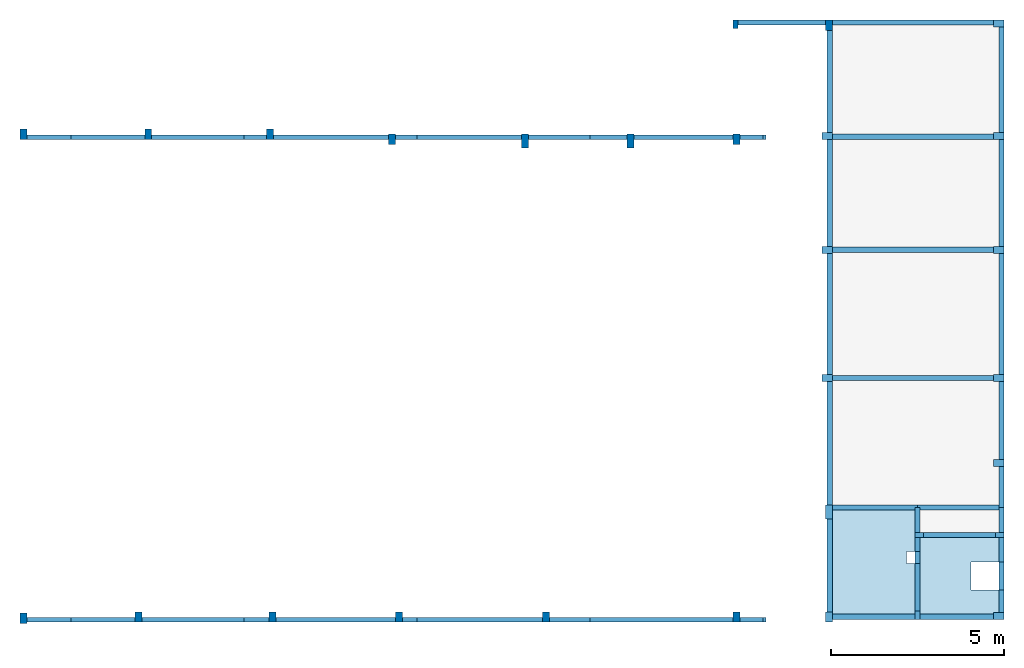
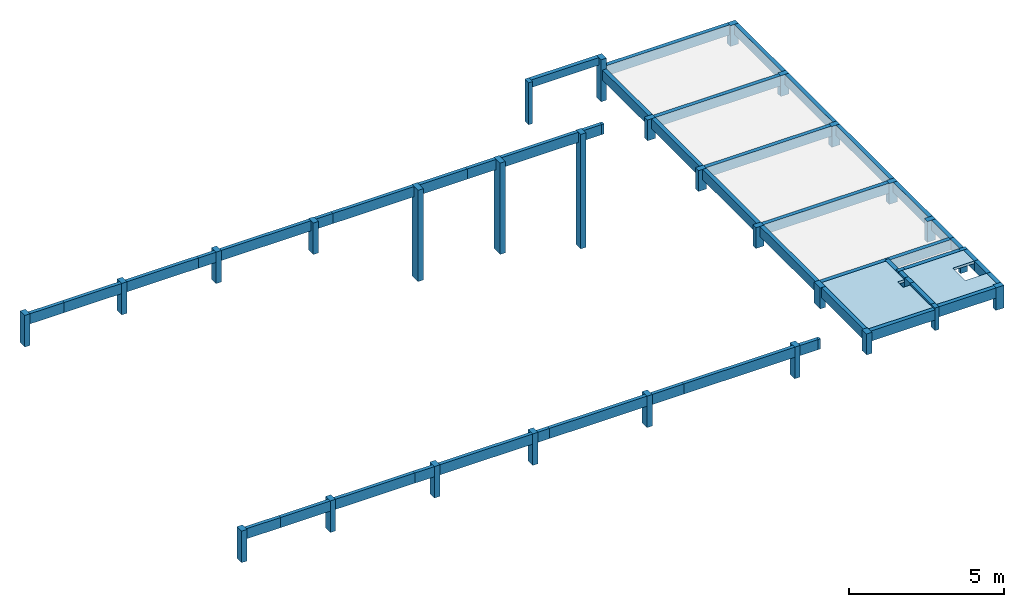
# One storey, part 1 of 3: 51 beams, 29 columns, 2 slabs.
"""IFC4 building model written with IfcOpenShell, lengths in centimetres."""

from ifc_helpers import new_model, si_unit, derived_unit, frame, origin_with_axes, origin_2d_with_axis, place, context, project, spatial, polyline, rectangle, outline, extrude, material, element, save


model = new_model("IFC4")

# Units and contexts
model_context = context("Model", 3, precision=1e-05, world=origin_with_axes(), identifier="Body")
ifc_project = project(units=[si_unit("LENGTHUNIT", "METRE", prefix="CENTI"), si_unit("VOLUMEUNIT", "CUBIC_METRE"), si_unit("AREAUNIT", "SQUARE_METRE"), si_unit("POWERUNIT", "WATT"), si_unit("LUMINOUSFLUXUNIT", "LUMEN"), si_unit("ELECTRICCURRENTUNIT", "AMPERE"), si_unit("PRESSUREUNIT", "PASCAL", prefix="KILO"), si_unit("MASSUNIT", "GRAM", prefix="KILO"), si_unit("PLANEANGLEUNIT", "RADIAN"), derived_unit("VOLUMETRICFLOWRATEUNIT", [(si_unit("LENGTHUNIT", "METRE"), 3), (si_unit("TIMEUNIT", "SECOND"), -1)])], contexts=[model_context])

# Site, building, storey
site_placement = place(None, origin_with_axes())
site = spatial("IfcSite", under=ifc_project, at=site_placement)
building_placement = place(site_placement, frame((0.0, 0.0, -295.0)))
building = spatial("IfcBuilding", under=site, at=building_placement)
placement_1 = place(building_placement, origin_with_axes())
placement_2 = place(placement_1, frame((0.0, 0.0, 101.0), z_axis=(0.0, 0.0, 1.0), x_axis=(1.0, 0.0, 0.0)))
placement_3 = place(placement_2, frame((0.0, 0.0, 204.0), z_axis=(0.0, 0.0, 1.0), x_axis=(1.0, 0.0, 0.0)))
placement_4 = place(placement_3, frame((0.0, 0.0, 292.0), z_axis=(0.0, 0.0, 1.0), x_axis=(1.0, 0.0, 0.0)))
placement_5 = place(placement_4, frame((0.0, 0.0, 302.0), z_axis=(0.0, 0.0, 1.0), x_axis=(1.0, 0.0, 0.0)))
placement_6 = place(placement_5, frame((0.0, 0.0, 326.0), z_axis=(0.0, 0.0, 1.0), x_axis=(1.0, 0.0, 0.0)))
storey_placement = place(placement_6, frame((0.0, 0.0, 124.0), z_axis=(0.0, 0.0, 1.0), x_axis=(1.0, 0.0, 0.0)))
storey = spatial("IfcBuildingStorey", under=building, at=storey_placement, Name="TELHADO CINE", CompositionType="ELEMENT", Elevation=1054.0)

# Columns
ifc_material = material(Name="Concreto")
column_1_placement = place(storey_placement, frame((4001.76, -5114.55, -42.0), z_axis=(0.0, 0.0, 1.0), x_axis=(1.0, 0.0, 0.0)))
element("IfcColumn", 1, at=column_1_placement, inside=storey, material=ifc_material, Name="P10", context=model_context, shape_type="SolidModel", body=[
    extrude(rectangle(XDim=20.0, YDim=30.0, at=origin_2d_with_axis()), frame((0.0, 0.0, 0.0), z_axis=(0.0, 0.0, 1.0), x_axis=(0.0, 1.0, 0.0)), (0.0, 0.0, -1.0), 82.0),
])
for number, where, z_axis, x_axis, name in (
    (2, (1183.9, -5434.69, 0.0), (0.0, 0.0, 1.0), (1.0, 0.0, 0.0), "P11"),
    (3, (1544.4, -5434.69, 0.0), (0.0, 0.0, 1.0), (1.0, 0.0, 0.0), "P12"),
    (4, (1895.85, -5434.69, 0.0), (0.0, 0.0, 1.0), (1.0, 0.0, 0.0), "P13"),
    (5, (2248.73, -5449.62, 0.0), (0.0, 0.0, 1.0), (1.0, 0.0, 0.0), "P14"),
):
    element("IfcColumn", number, at=place(storey_placement, frame(where, z_axis=z_axis, x_axis=x_axis)), inside=storey, material=ifc_material, Name=name, context=model_context, shape_type="SolidModel", body=[
        extrude(rectangle(XDim=20.0, YDim=30.0, at=origin_2d_with_axis()), origin_with_axes(), (0.0, 0.0, -1.0), 124.0),
    ])
for number, where, z_axis, x_axis, name in (
    (6, (2632.84, -5454.62, 0.0), (0.0, 0.0, 1.0), (1.0, 0.0, 0.0), "P15"),
    (7, (2938.28, -5454.62, 0.0), (0.0, 0.0, 1.0), (1.0, 0.0, 0.0), "P16"),
):
    element("IfcColumn", number, at=place(storey_placement, frame(where, z_axis=z_axis, x_axis=x_axis)), inside=storey, material=ifc_material, Name=name, context=model_context, shape_type="SolidModel", body=[
        extrude(rectangle(XDim=20.0, YDim=40.0, at=origin_2d_with_axis()), origin_with_axes(), (0.0, 0.0, -1.0), 359.0),
    ])
column_2_placement = place(storey_placement, frame((3243.73, -5449.62, 0.0), z_axis=(0.0, 0.0, 1.0), x_axis=(1.0, 0.0, 0.0)))
element("IfcColumn", 8, at=column_2_placement, inside=storey, material=ifc_material, Name="P17", context=model_context, shape_type="SolidModel", body=[
    extrude(rectangle(XDim=20.0, YDim=30.0, at=origin_2d_with_axis()), origin_with_axes(), (0.0, 0.0, -1.0), 450.0),
])
for number, where, z_axis, x_axis, name in (
    (9, (3505.71, -5439.69, -42.0), (0.0, 0.0, 1.0), (1.0, 0.0, 0.0), "P18"),
    (10, (4001.74, -5439.69, -42.0), (0.0, 0.0, 1.0), (1.0, 0.0, 0.0), "P19"),
    (11, (3505.73, -5768.55, -42.0), (0.0, 0.0, 1.0), (1.0, 0.0, 0.0), "P25"),
    (12, (4001.76, -5768.55, -42.0), (0.0, 0.0, 1.0), (1.0, 0.0, 0.0), "P26"),
    (13, (3505.73, -6138.55, -42.0), (0.0, 0.0, 1.0), (1.0, 0.0, 0.0), "P30"),
    (14, (4001.76, -6138.55, -42.0), (0.0, 0.0, 1.0), (1.0, 0.0, 0.0), "P31"),
    (15, (4001.76, -6384.65, -42.0), (0.0, 0.0, 1.0), (1.0, 0.0, 0.0), "P34"),
):
    element("IfcColumn", number, at=place(storey_placement, frame(where, z_axis=z_axis, x_axis=x_axis)), inside=storey, material=ifc_material, Name=name, context=model_context, shape_type="SolidModel", body=[
        extrude(rectangle(XDim=20.0, YDim=30.0, at=origin_2d_with_axis()), frame((0.0, 0.0, 0.0), z_axis=(0.0, 0.0, 1.0), x_axis=(0.0, -1.0, 0.0)), (0.0, 0.0, -1.0), 82.0),
    ])
column_3_placement = place(storey_placement, frame((3510.73, -6525.55, -42.0), z_axis=(0.0, 0.0, 1.0), x_axis=(1.0, 0.0, 0.0)))
element("IfcColumn", 16, at=column_3_placement, inside=storey, material=ifc_material, Name="P37", context=model_context, shape_type="SolidModel", body=[
    extrude(rectangle(XDim=20.0, YDim=40.0, at=origin_2d_with_axis()), origin_with_axes(), (0.0, 0.0, -1.0), 82.0),
])
for number, where, z_axis, x_axis, name in (
    (17, (3772.23, -6592.81, -35.0), (0.0, 0.0, 1.0), (1.0, 0.0, 0.0), "P38"),
    (18, (4004.23, -6592.81, -35.0), (0.0, 0.0, 1.0), (1.0, 0.0, 0.0), "P39"),
):
    element("IfcColumn", number, at=place(storey_placement, frame(where, z_axis=z_axis, x_axis=x_axis)), inside=storey, material=ifc_material, Name=name, context=model_context, shape_type="SolidModel", body=[
        extrude(rectangle(XDim=15.0, YDim=25.0, at=origin_2d_with_axis()), frame((0.0, 0.0, 0.0), z_axis=(0.0, 0.0, 1.0), x_axis=(0.0, 1.0, 0.0)), (0.0, 0.0, -1.0), 89.0),
    ])
for number, where, z_axis, x_axis, name in (
    (19, (1183.9, -6833.35, 0.0), (0.0, 0.0, 1.0), (1.0, 0.0, 0.0), "P41"),
    (20, (1515.96, -6829.2, 0.0), (0.0, 0.0, 1.0), (1.0, 0.0, 0.0), "P42"),
    (21, (1903.6, -6829.2, 0.0), (0.0, 0.0, 1.0), (1.0, 0.0, 0.0), "P43"),
    (22, (2268.73, -6829.2, 0.0), (0.0, 0.0, 1.0), (1.0, 0.0, 0.0), "P44"),
    (23, (2693.6, -6829.2, 0.0), (0.0, 0.0, 1.0), (1.0, 0.0, 0.0), "P45"),
    (24, (3243.73, -6829.2, 0.0), (0.0, 0.0, 1.0), (1.0, 0.0, 0.0), "P46"),
):
    element("IfcColumn", number, at=place(storey_placement, frame(where, z_axis=z_axis, x_axis=x_axis)), inside=storey, material=ifc_material, Name=name, context=model_context, shape_type="SolidModel", body=[
        extrude(rectangle(XDim=20.0, YDim=30.0, at=origin_2d_with_axis()), origin_with_axes(), (0.0, 0.0, -1.0), 124.0),
    ])
column_4_placement = place(storey_placement, frame((3510.73, -6829.2, -42.0), z_axis=(0.0, 0.0, 1.0), x_axis=(1.0, 0.0, 0.0)))
element("IfcColumn", 25, at=column_4_placement, inside=storey, material=ifc_material, Name="P47", context=model_context, shape_type="SolidModel", body=[
    extrude(rectangle(XDim=20.0, YDim=30.0, at=origin_2d_with_axis()), origin_with_axes(), (0.0, 0.0, -1.0), 82.0),
])
column_5_placement = place(storey_placement, frame((3767.23, -6823.79, -35.0), z_axis=(0.0, 0.0, 1.0), x_axis=(1.0, 0.0, 0.0)))
element("IfcColumn", 26, at=column_5_placement, inside=storey, material=ifc_material, Name="P48", context=model_context, shape_type="SolidModel", body=[
    extrude(rectangle(XDim=15.0, YDim=25.0, at=origin_2d_with_axis()), origin_with_axes(), (0.0, 0.0, -1.0), 89.0),
])
column_6_placement = place(storey_placement, frame((4001.75, -6826.29, -35.0), z_axis=(0.0, 0.0, 1.0), x_axis=(1.0, 0.0, 0.0)))
element("IfcColumn", 27, at=column_6_placement, inside=storey, material=ifc_material, Name="P49", context=model_context, shape_type="SolidModel", body=[
    extrude(rectangle(XDim=20.0, YDim=30.0, at=origin_2d_with_axis()), frame((0.0, 0.0, 0.0), z_axis=(0.0, 0.0, 1.0), x_axis=(0.0, 1.0, 0.0)), (0.0, 0.0, -1.0), 89.0),
])
column_7_placement = place(storey_placement, frame((3241.23, -5117.05, 0.0), z_axis=(0.0, 0.0, 1.0), x_axis=(1.0, 0.0, 0.0)))
element("IfcColumn", 28, at=column_7_placement, inside=storey, material=ifc_material, Name="P8", context=model_context, shape_type="SolidModel", body=[
    extrude(rectangle(XDim=15.0, YDim=25.0, at=origin_2d_with_axis()), origin_with_axes(), (0.0, 0.0, -1.0), 165.0),
])
column_8_placement = place(storey_placement, frame((3510.73, -5119.55, 0.0), z_axis=(0.0, 0.0, 1.0), x_axis=(1.0, 0.0, 0.0)))
element("IfcColumn", 29, at=column_8_placement, inside=storey, material=ifc_material, Name="P9", context=model_context, shape_type="SolidModel", body=[
    extrude(rectangle(XDim=20.0, YDim=30.0, at=origin_2d_with_axis()), frame((0.0, 0.0, 0.0), z_axis=(0.0, 0.0, 1.0), x_axis=(-1.0, 0.0, 0.0)), (0.0, 0.0, -1.0), 165.0),
])

# Beams
beam_1_placement = place(storey_placement, frame((3374.73, -5112.05, 0.0), z_axis=(0.0, 0.0, 1.0), x_axis=(1.0, 0.0, 0.0)))
element("IfcBeam", 30, at=beam_1_placement, inside=storey, material=ifc_material, Name="V401", context=model_context, shape_type="SolidModel", body=[
    extrude(rectangle(XDim=15.0, YDim=30.0, at=origin_2d_with_axis()), frame((-126.0, 0.0, -15.0), z_axis=(1.0, 0.0, 0.0), x_axis=(0.0, -1.0, 0.0)), (0.0, 0.0, 1.0), 252.0),
])
for number, where, z_axis, x_axis, name in (
    (31, (3753.745, -5112.05, -42.0), (0.0, 0.0, 1.0), (1.0, 0.0, 0.0), "V402"),
    (32, (3753.725, -5442.12, -42.0), (0.0, 0.0, 1.0), (1.0, 0.0, 0.0), "V403"),
    (33, (3753.745, -5768.55, -42.0), (0.0, 0.0, 1.0), (1.0, 0.0, 0.0), "V404"),
    (34, (3753.745, -6138.55, -42.0), (0.0, 0.0, 1.0), (1.0, 0.0, 0.0), "V405"),
):
    element("IfcBeam", number, at=place(storey_placement, frame(where, z_axis=z_axis, x_axis=x_axis)), inside=storey, material=ifc_material, Name=name, context=model_context, shape_type="SolidModel", body=[
        extrude(rectangle(XDim=15.0, YDim=40.0, at=origin_2d_with_axis()), frame((-233.015, 0.0, -20.0), z_axis=(1.0, 0.0, 0.0), x_axis=(0.0, -1.0, 0.0)), (0.0, 0.0, 1.0), 466.03),
    ])
beam_2_placement = place(storey_placement, frame((3643.98, -6513.05, -42.0), z_axis=(0.0, 0.0, 1.0), x_axis=(1.0, 0.0, 0.0)))
element("IfcBeam", 35, at=beam_2_placement, inside=storey, material=ifc_material, Name="V406", context=model_context, shape_type="SolidModel", body=[
    extrude(rectangle(XDim=15.0, YDim=40.0, at=origin_2d_with_axis()), frame((-123.25, 0.0, -20.0), z_axis=(1.0, 0.0, 0.0), x_axis=(0.0, -1.0, 0.0)), (0.0, 0.0, 1.0), 246.5),
])
beam_3_placement = place(storey_placement, frame((3888.245, -6513.05, -42.0), z_axis=(0.0, 0.0, 1.0), x_axis=(1.0, 0.0, 0.0)))
element("IfcBeam", 36, at=beam_3_placement, inside=storey, material=ifc_material, Name="V406", context=model_context, shape_type="SolidModel", body=[
    extrude(rectangle(XDim=15.0, YDim=40.0, at=origin_2d_with_axis()), frame((-121.015, 0.0, -20.0), z_axis=(1.0, 0.0, 0.0), x_axis=(0.0, -1.0, 0.0)), (0.0, 0.0, 1.0), 242.03),
])
beam_4_placement = place(storey_placement, frame((3888.23, -6592.81, -35.0), z_axis=(0.0, 0.0, 1.0), x_axis=(1.0, 0.0, 0.0)))
element("IfcBeam", 37, at=beam_4_placement, inside=storey, material=ifc_material, Name="V407", context=model_context, shape_type="SolidModel", body=[
    extrude(rectangle(XDim=15.0, YDim=40.0, at=origin_2d_with_axis()), frame((-103.5, 0.0, -20.0), z_axis=(1.0, 0.0, 0.0), x_axis=(0.0, -1.0, 0.0)), (0.0, 0.0, 1.0), 207.0),
])
beam_5_placement = place(storey_placement, frame((3640.23, -6828.79, -42.0), z_axis=(0.0, 0.0, 1.0), x_axis=(1.0, 0.0, 0.0)))
element("IfcBeam", 38, at=beam_5_placement, inside=storey, material=ifc_material, Name="V408", context=model_context, shape_type="SolidModel", body=[
    extrude(rectangle(XDim=15.0, YDim=40.0, at=origin_2d_with_axis()), frame((-119.5, 0.0, -20.0), z_axis=(1.0, 0.0, 0.0), x_axis=(0.0, -1.0, 0.0)), (0.0, 0.0, 1.0), 239.0),
])
beam_6_placement = place(storey_placement, frame((3880.74, -6828.79, -35.0), z_axis=(0.0, 0.0, 1.0), x_axis=(1.0, 0.0, 0.0)))
element("IfcBeam", 39, at=beam_6_placement, inside=storey, material=ifc_material, Name="V409", context=model_context, shape_type="SolidModel", body=[
    extrude(rectangle(XDim=15.0, YDim=40.0, at=origin_2d_with_axis()), frame((-106.01, 0.0, -20.0), z_axis=(1.0, 0.0, 0.0), x_axis=(0.0, -1.0, 0.0)), (0.0, 0.0, 1.0), 212.02),
])
beam_7_placement = place(storey_placement, frame((3513.23, -6327.05, -42.0), z_axis=(0.0, 0.0, 1.0), x_axis=(1.0, 0.0, 0.0)))
element("IfcBeam", 40, at=beam_7_placement, inside=storey, material=ifc_material, Name="V410", context=model_context, shape_type="SolidModel", body=[
    extrude(rectangle(XDim=15.0, YDim=40.0, at=origin_2d_with_axis()), frame((0.0, -178.5, -20.0), z_axis=(0.0, 1.0, 0.0), x_axis=(1.0, 0.0, 0.0)), (0.0, 0.0, 1.0), 357.0),
])
beam_8_placement = place(storey_placement, frame((3513.23, -6679.875, -42.0), z_axis=(0.0, 0.0, 1.0), x_axis=(1.0, 0.0, 0.0)))
element("IfcBeam", 41, at=beam_8_placement, inside=storey, material=ifc_material, Name="V410", context=model_context, shape_type="SolidModel", body=[
    extrude(rectangle(XDim=15.0, YDim=40.0, at=origin_2d_with_axis()), frame((0.0, -134.325, -20.0), z_axis=(0.0, 1.0, 0.0), x_axis=(1.0, 0.0, 0.0)), (0.0, 0.0, 1.0), 268.65),
])
beam_9_placement = place(storey_placement, frame((3513.23, -5953.55, -42.0), z_axis=(0.0, 0.0, 1.0), x_axis=(1.0, 0.0, 0.0)))
element("IfcBeam", 42, at=beam_9_placement, inside=storey, material=ifc_material, Name="V411", context=model_context, shape_type="SolidModel", body=[
    extrude(rectangle(XDim=15.0, YDim=40.0, at=origin_2d_with_axis()), frame((0.0, -175.0, -20.0), z_axis=(0.0, 1.0, 0.0), x_axis=(1.0, 0.0, 0.0)), (0.0, 0.0, 1.0), 350.0),
])
beam_10_placement = place(storey_placement, frame((3513.23, -5604.12, -42.0), z_axis=(0.0, 0.0, 1.0), x_axis=(1.0, 0.0, 0.0)))
element("IfcBeam", 43, at=beam_10_placement, inside=storey, material=ifc_material, Name="V411", context=model_context, shape_type="SolidModel", body=[
    extrude(rectangle(XDim=15.0, YDim=40.0, at=origin_2d_with_axis()), frame((0.0, -154.43, -20.0), z_axis=(0.0, 1.0, 0.0), x_axis=(1.0, 0.0, 0.0)), (0.0, 0.0, 1.0), 308.86),
])
beam_11_placement = place(storey_placement, frame((3513.23, -5282.12, -42.0), z_axis=(0.0, 0.0, 1.0), x_axis=(1.0, 0.0, 0.0)))
element("IfcBeam", 44, at=beam_11_placement, inside=storey, material=ifc_material, Name="V411", context=model_context, shape_type="SolidModel", body=[
    extrude(rectangle(XDim=15.0, YDim=40.0, at=origin_2d_with_axis()), frame((0.0, -147.57, -20.0), z_axis=(0.0, 1.0, 0.0), x_axis=(1.0, 0.0, 0.0)), (0.0, 0.0, 1.0), 295.14),
])
beam_12_placement = place(storey_placement, frame((3767.23, -6743.3, -35.0), z_axis=(0.0, 0.0, 1.0), x_axis=(1.0, 0.0, 0.0)))
element("IfcBeam", 45, at=beam_12_placement, inside=storey, material=ifc_material, Name="V412", context=model_context, shape_type="SolidModel", body=[
    extrude(rectangle(XDim=15.0, YDim=40.0, at=origin_2d_with_axis()), frame((0.0, -67.99, -20.0), z_axis=(0.0, 1.0, 0.0), x_axis=(1.0, 0.0, 0.0)), (0.0, 0.0, 1.0), 135.98),
])
beam_13_placement = place(storey_placement, frame((3767.23, -6657.81, -35.0), z_axis=(0.0, 0.0, 1.0), x_axis=(1.0, 0.0, 0.0)))
element("IfcBeam", 46, at=beam_13_placement, inside=storey, material=ifc_material, Name="V412", context=model_context, shape_type="SolidModel", body=[
    extrude(rectangle(XDim=15.0, YDim=40.0, at=origin_2d_with_axis()), frame((0.0, -17.5, -20.0), z_axis=(0.0, 1.0, 0.0), x_axis=(1.0, 0.0, 0.0)), (0.0, 0.0, 1.0), 35.0),
])
beam_14_placement = place(storey_placement, frame((3767.23, -6620.31, -35.0), z_axis=(0.0, 0.0, 1.0), x_axis=(1.0, 0.0, 0.0)))
element("IfcBeam", 47, at=beam_14_placement, inside=storey, material=ifc_material, Name="V412", context=model_context, shape_type="SolidModel", body=[
    extrude(rectangle(XDim=15.0, YDim=40.0, at=origin_2d_with_axis()), frame((0.0, -20.0, -20.0), z_axis=(0.0, 1.0, 0.0), x_axis=(1.0, 0.0, 0.0)), (0.0, 0.0, 1.0), 40.0),
])
beam_15_placement = place(storey_placement, frame((3767.23, -6549.18, -42.0), z_axis=(0.0, 0.0, 1.0), x_axis=(1.0, 0.0, 0.0)))
element("IfcBeam", 48, at=beam_15_placement, inside=storey, material=ifc_material, Name="V413", context=model_context, shape_type="SolidModel", body=[
    extrude(rectangle(XDim=15.0, YDim=30.0, at=origin_2d_with_axis()), frame((0.0, -36.13, -15.0), z_axis=(0.0, 1.0, 0.0), x_axis=(1.0, 0.0, 0.0)), (0.0, 0.0, 1.0), 72.26),
])
beam_16_placement = place(storey_placement, frame((4009.26, -6783.545, -35.0), z_axis=(0.0, 0.0, 1.0), x_axis=(1.0, 0.0, 0.0)))
element("IfcBeam", 49, at=beam_16_placement, inside=storey, material=ifc_material, Name="V414", context=model_context, shape_type="SolidModel", body=[
    extrude(rectangle(XDim=15.0, YDim=40.0, at=origin_2d_with_axis()), frame((0.0, -32.745, -20.0), z_axis=(0.0, 1.0, 0.0), x_axis=(1.0, 0.0, 0.0)), (0.0, 0.0, 1.0), 65.49),
])
beam_17_placement = place(storey_placement, frame((4009.26, -6635.555, -35.0), z_axis=(0.0, 0.0, 1.0), x_axis=(1.0, 0.0, 0.0)))
element("IfcBeam", 50, at=beam_17_placement, inside=storey, material=ifc_material, Name="V414", context=model_context, shape_type="SolidModel", body=[
    extrude(rectangle(XDim=15.0, YDim=40.0, at=origin_2d_with_axis()), frame((0.0, -35.245, -20.0), z_axis=(0.0, 1.0, 0.0), x_axis=(1.0, 0.0, 0.0)), (0.0, 0.0, 1.0), 70.49),
])
beam_18_placement = place(storey_placement, frame((4009.26, -6710.8, -35.0), z_axis=(0.0, 0.0, 1.0), x_axis=(1.0, 0.0, 0.0)))
element("IfcBeam", 51, at=beam_18_placement, inside=storey, material=ifc_material, Name="V414", context=model_context, shape_type="SolidModel", body=[
    extrude(rectangle(XDim=15.0, YDim=40.0, at=origin_2d_with_axis()), frame((0.0, -40.0, -20.0), z_axis=(0.0, 1.0, 0.0), x_axis=(1.0, 0.0, 0.0)), (0.0, 0.0, 1.0), 80.0),
])
beam_19_placement = place(storey_placement, frame((4009.26, -6453.85, -42.0), z_axis=(0.0, 0.0, 1.0), x_axis=(1.0, 0.0, 0.0)))
element("IfcBeam", 52, at=beam_19_placement, inside=storey, material=ifc_material, Name="V415", context=model_context, shape_type="SolidModel", body=[
    extrude(rectangle(XDim=15.0, YDim=40.0, at=origin_2d_with_axis()), frame((0.0, -59.2, -20.0), z_axis=(0.0, 1.0, 0.0), x_axis=(1.0, 0.0, 0.0)), (0.0, 0.0, 1.0), 118.4),
])
beam_20_placement = place(storey_placement, frame((4009.26, -6261.6, -42.0), z_axis=(0.0, 0.0, 1.0), x_axis=(1.0, 0.0, 0.0)))
element("IfcBeam", 53, at=beam_20_placement, inside=storey, material=ifc_material, Name="V415", context=model_context, shape_type="SolidModel", body=[
    extrude(rectangle(XDim=15.0, YDim=40.0, at=origin_2d_with_axis()), frame((0.0, -113.05, -20.0), z_axis=(0.0, 1.0, 0.0), x_axis=(1.0, 0.0, 0.0)), (0.0, 0.0, 1.0), 226.1),
])
beam_21_placement = place(storey_placement, frame((4009.26, -6549.18, -42.0), z_axis=(0.0, 0.0, 1.0), x_axis=(1.0, 0.0, 0.0)))
element("IfcBeam", 54, at=beam_21_placement, inside=storey, material=ifc_material, Name="V415", context=model_context, shape_type="SolidModel", body=[
    extrude(rectangle(XDim=15.0, YDim=40.0, at=origin_2d_with_axis()), frame((0.0, -36.13, -20.0), z_axis=(0.0, 1.0, 0.0), x_axis=(1.0, 0.0, 0.0)), (0.0, 0.0, 1.0), 72.26),
])
beam_22_placement = place(storey_placement, frame((4009.26, -5277.12, -42.0), z_axis=(0.0, 0.0, 1.0), x_axis=(1.0, 0.0, 0.0)))
element("IfcBeam", 55, at=beam_22_placement, inside=storey, material=ifc_material, Name="V416", context=model_context, shape_type="SolidModel", body=[
    extrude(rectangle(XDim=15.0, YDim=40.0, at=origin_2d_with_axis()), frame((0.0, -152.57, -20.0), z_axis=(0.0, 1.0, 0.0), x_axis=(1.0, 0.0, 0.0)), (0.0, 0.0, 1.0), 305.14),
])
beam_23_placement = place(storey_placement, frame((4009.26, -5604.12, -42.0), z_axis=(0.0, 0.0, 1.0), x_axis=(1.0, 0.0, 0.0)))
element("IfcBeam", 56, at=beam_23_placement, inside=storey, material=ifc_material, Name="V416", context=model_context, shape_type="SolidModel", body=[
    extrude(rectangle(XDim=15.0, YDim=40.0, at=origin_2d_with_axis()), frame((0.0, -154.43, -20.0), z_axis=(0.0, 1.0, 0.0), x_axis=(1.0, 0.0, 0.0)), (0.0, 0.0, 1.0), 308.86),
])
beam_24_placement = place(storey_placement, frame((4009.26, -5953.55, -42.0), z_axis=(0.0, 0.0, 1.0), x_axis=(1.0, 0.0, 0.0)))
element("IfcBeam", 57, at=beam_24_placement, inside=storey, material=ifc_material, Name="V416", context=model_context, shape_type="SolidModel", body=[
    extrude(rectangle(XDim=15.0, YDim=40.0, at=origin_2d_with_axis()), frame((0.0, -175.0, -20.0), z_axis=(0.0, 1.0, 0.0), x_axis=(1.0, 0.0, 0.0)), (0.0, 0.0, 1.0), 350.0),
])
beam_25_placement = place(storey_placement, frame((2471.83, -5443.19, 0.0), z_axis=(0.0, 0.0, 1.0), x_axis=(1.0, 0.0, 0.0)))
element("IfcBeam", 58, at=beam_25_placement, inside=storey, material=ifc_material, Name="VTR1", context=model_context, shape_type="SolidModel", body=[
    extrude(rectangle(XDim=13.0, YDim=40.0, at=origin_2d_with_axis()), frame((-151.01, 0.0, -20.0), z_axis=(1.0, 0.0, 0.0), x_axis=(0.0, -1.0, 0.0)), (0.0, 0.0, 1.0), 302.02),
])
beam_26_placement = place(storey_placement, frame((1687.61, -5443.19, 0.0), z_axis=(0.0, 0.0, 1.0), x_axis=(1.0, 0.0, 0.0)))
element("IfcBeam", 59, at=beam_26_placement, inside=storey, material=ifc_material, Name="VTR1", context=model_context, shape_type="SolidModel", body=[
    extrude(rectangle(XDim=13.0, YDim=40.0, at=origin_2d_with_axis()), frame((-133.21, 0.0, -20.0), z_axis=(1.0, 0.0, 0.0), x_axis=(0.0, -1.0, 0.0)), (0.0, 0.0, 1.0), 266.42),
])
beam_27_placement = place(storey_placement, frame((1853.335, -5443.19, 0.0), z_axis=(0.0, 0.0, 1.0), x_axis=(1.0, 0.0, 0.0)))
element("IfcBeam", 60, at=beam_27_placement, inside=storey, material=ifc_material, Name="VTR1", context=model_context, shape_type="SolidModel", body=[
    extrude(rectangle(XDim=13.0, YDim=40.0, at=origin_2d_with_axis()), frame((-32.515, 0.0, -20.0), z_axis=(1.0, 0.0, 0.0), x_axis=(0.0, -1.0, 0.0)), (0.0, 0.0, 1.0), 65.03),
])
beam_28_placement = place(storey_placement, frame((1257.36, -5443.19, 0.0), z_axis=(0.0, 0.0, 1.0), x_axis=(1.0, 0.0, 0.0)))
element("IfcBeam", 61, at=beam_28_placement, inside=storey, material=ifc_material, Name="VTR1", context=model_context, shape_type="SolidModel", body=[
    extrude(rectangle(XDim=13.0, YDim=40.0, at=origin_2d_with_axis()), frame((-63.46, 0.0, -20.0), z_axis=(1.0, 0.0, 0.0), x_axis=(0.0, -1.0, 0.0)), (0.0, 0.0, 1.0), 126.92),
])
beam_29_placement = place(storey_placement, frame((3287.275, -5443.19, 0.0), z_axis=(0.0, 0.0, 1.0), x_axis=(1.0, 0.0, 0.0)))
element("IfcBeam", 62, at=beam_29_placement, inside=storey, material=ifc_material, Name="VTR1", context=model_context, shape_type="SolidModel", body=[
    extrude(rectangle(XDim=13.0, YDim=40.0, at=origin_2d_with_axis()), frame((-33.545, 0.0, -20.0), z_axis=(1.0, 0.0, 0.0), x_axis=(0.0, -1.0, 0.0)), (0.0, 0.0, 1.0), 67.09),
])
beam_30_placement = place(storey_placement, frame((2072.29, -5443.19, 0.0), z_axis=(0.0, 0.0, 1.0), x_axis=(1.0, 0.0, 0.0)))
element("IfcBeam", 63, at=beam_30_placement, inside=storey, material=ifc_material, Name="VTR1", context=model_context, shape_type="SolidModel", body=[
    extrude(rectangle(XDim=13.0, YDim=40.0, at=origin_2d_with_axis()), frame((-166.44, 0.0, -20.0), z_axis=(1.0, 0.0, 0.0), x_axis=(0.0, -1.0, 0.0)), (0.0, 0.0, 1.0), 332.88),
])
beam_31_placement = place(storey_placement, frame((2289.775, -5443.19, 0.0), z_axis=(0.0, 0.0, 1.0), x_axis=(1.0, 0.0, 0.0)))
element("IfcBeam", 64, at=beam_31_placement, inside=storey, material=ifc_material, Name="VTR1", context=model_context, shape_type="SolidModel", body=[
    extrude(rectangle(XDim=13.0, YDim=40.0, at=origin_2d_with_axis()), frame((-31.045, 0.0, -20.0), z_axis=(1.0, 0.0, 0.0), x_axis=(0.0, -1.0, 0.0)), (0.0, 0.0, 1.0), 62.09),
])
beam_32_placement = place(storey_placement, frame((2731.83, -5443.19, 0.0), z_axis=(0.0, 0.0, 1.0), x_axis=(1.0, 0.0, 0.0)))
element("IfcBeam", 65, at=beam_32_placement, inside=storey, material=ifc_material, Name="VTR1", context=model_context, shape_type="SolidModel", body=[
    extrude(rectangle(XDim=13.0, YDim=40.0, at=origin_2d_with_axis()), frame((-88.99, 0.0, -20.0), z_axis=(1.0, 0.0, 0.0), x_axis=(0.0, -1.0, 0.0)), (0.0, 0.0, 1.0), 177.98),
])
beam_33_placement = place(storey_placement, frame((3091.005, -5443.19, 0.0), z_axis=(0.0, 0.0, 1.0), x_axis=(1.0, 0.0, 0.0)))
element("IfcBeam", 66, at=beam_33_placement, inside=storey, material=ifc_material, Name="VTR1", context=model_context, shape_type="SolidModel", body=[
    extrude(rectangle(XDim=13.0, YDim=40.0, at=origin_2d_with_axis()), frame((-142.725, 0.0, -20.0), z_axis=(1.0, 0.0, 0.0), x_axis=(0.0, -1.0, 0.0)), (0.0, 0.0, 1.0), 285.45),
])
beam_34_placement = place(storey_placement, frame((2874.55, -5443.19, 0.0), z_axis=(0.0, 0.0, 1.0), x_axis=(1.0, 0.0, 0.0)))
element("IfcBeam", 67, at=beam_34_placement, inside=storey, material=ifc_material, Name="VTR1", context=model_context, shape_type="SolidModel", body=[
    extrude(rectangle(XDim=13.0, YDim=40.0, at=origin_2d_with_axis()), frame((-53.73, 0.0, -20.0), z_axis=(1.0, 0.0, 0.0), x_axis=(0.0, -1.0, 0.0)), (0.0, 0.0, 1.0), 107.46),
])
beam_35_placement = place(storey_placement, frame((1427.61, -5443.19, 0.0), z_axis=(0.0, 0.0, 1.0), x_axis=(1.0, 0.0, 0.0)))
element("IfcBeam", 68, at=beam_35_placement, inside=storey, material=ifc_material, Name="VTR1", context=model_context, shape_type="SolidModel", body=[
    extrude(rectangle(XDim=13.0, YDim=40.0, at=origin_2d_with_axis()), frame((-106.79, 0.0, -20.0), z_axis=(1.0, 0.0, 0.0), x_axis=(0.0, -1.0, 0.0)), (0.0, 0.0, 1.0), 213.58),
])
beam_36_placement = place(storey_placement, frame((3324.775, -5443.19, 0.0), z_axis=(0.0, 0.0, 1.0), x_axis=(1.0, 0.0, 0.0)))
element("IfcBeam", 69, at=beam_36_placement, inside=storey, material=ifc_material, Name="VTR1", context=model_context, shape_type="SolidModel", body=[
    extrude(rectangle(XDim=13.0, YDim=40.0, at=origin_2d_with_axis()), frame((-3.955, 0.0, -20.0), z_axis=(1.0, 0.0, 0.0), x_axis=(0.0, -1.0, 0.0)), (0.0, 0.0, 1.0), 7.91),
])
beam_37_placement = place(storey_placement, frame((1413.39, -6837.7, 0.0), z_axis=(0.0, 0.0, 1.0), x_axis=(1.0, 0.0, 0.0)))
element("IfcBeam", 70, at=beam_37_placement, inside=storey, material=ifc_material, Name="VTR2", context=model_context, shape_type="SolidModel", body=[
    extrude(rectangle(XDim=13.0, YDim=40.0, at=origin_2d_with_axis()), frame((-92.57, 0.0, -20.0), z_axis=(1.0, 0.0, 0.0), x_axis=(0.0, -1.0, 0.0)), (0.0, 0.0, 1.0), 185.14),
])
beam_38_placement = place(storey_placement, frame((3027.275, -6837.7, 0.0), z_axis=(0.0, 0.0, 1.0), x_axis=(1.0, 0.0, 0.0)))
element("IfcBeam", 71, at=beam_38_placement, inside=storey, material=ifc_material, Name="VTR2", context=model_context, shape_type="SolidModel", body=[
    extrude(rectangle(XDim=13.0, YDim=40.0, at=origin_2d_with_axis()), frame((-206.455, 0.0, -20.0), z_axis=(1.0, 0.0, 0.0), x_axis=(0.0, -1.0, 0.0)), (0.0, 0.0, 1.0), 412.91),
])
beam_39_placement = place(storey_placement, frame((2502.21, -6837.7, 0.0), z_axis=(0.0, 0.0, 1.0), x_axis=(1.0, 0.0, 0.0)))
element("IfcBeam", 72, at=beam_39_placement, inside=storey, material=ifc_material, Name="VTR2", context=model_context, shape_type="SolidModel", body=[
    extrude(rectangle(XDim=13.0, YDim=40.0, at=origin_2d_with_axis()), frame((-181.39, 0.0, -20.0), z_axis=(1.0, 0.0, 0.0), x_axis=(0.0, -1.0, 0.0)), (0.0, 0.0, 1.0), 362.78),
])
beam_40_placement = place(storey_placement, frame((1857.21, -6837.7, 0.0), z_axis=(0.0, 0.0, 1.0), x_axis=(1.0, 0.0, 0.0)))
element("IfcBeam", 73, at=beam_40_placement, inside=storey, material=ifc_material, Name="VTR2", context=model_context, shape_type="SolidModel", body=[
    extrude(rectangle(XDim=13.0, YDim=40.0, at=origin_2d_with_axis()), frame((-36.39, 0.0, -20.0), z_axis=(1.0, 0.0, 0.0), x_axis=(0.0, -1.0, 0.0)), (0.0, 0.0, 1.0), 72.78),
])
beam_41_placement = place(storey_placement, frame((1673.39, -6837.7, 0.0), z_axis=(0.0, 0.0, 1.0), x_axis=(1.0, 0.0, 0.0)))
element("IfcBeam", 74, at=beam_41_placement, inside=storey, material=ifc_material, Name="VTR2", context=model_context, shape_type="SolidModel", body=[
    extrude(rectangle(XDim=13.0, YDim=40.0, at=origin_2d_with_axis()), frame((-147.43, 0.0, -20.0), z_axis=(1.0, 0.0, 0.0), x_axis=(0.0, -1.0, 0.0)), (0.0, 0.0, 1.0), 294.86),
])
beam_42_placement = place(storey_placement, frame((3287.275, -6837.7, 0.0), z_axis=(0.0, 0.0, 1.0), x_axis=(1.0, 0.0, 0.0)))
element("IfcBeam", 75, at=beam_42_placement, inside=storey, material=ifc_material, Name="VTR2", context=model_context, shape_type="SolidModel", body=[
    extrude(rectangle(XDim=13.0, YDim=40.0, at=origin_2d_with_axis()), frame((-33.545, 0.0, -20.0), z_axis=(1.0, 0.0, 0.0), x_axis=(0.0, -1.0, 0.0)), (0.0, 0.0, 1.0), 67.09),
])
beam_43_placement = place(storey_placement, frame((3324.775, -6837.7, 0.0), z_axis=(0.0, 0.0, 1.0), x_axis=(1.0, 0.0, 0.0)))
element("IfcBeam", 76, at=beam_43_placement, inside=storey, material=ifc_material, Name="VTR2", context=model_context, shape_type="SolidModel", body=[
    extrude(rectangle(XDim=13.0, YDim=40.0, at=origin_2d_with_axis()), frame((-3.955, 0.0, -20.0), z_axis=(1.0, 0.0, 0.0), x_axis=(0.0, -1.0, 0.0)), (0.0, 0.0, 1.0), 7.91),
])
beam_44_placement = place(storey_placement, frame((1257.36, -6837.7, 0.0), z_axis=(0.0, 0.0, 1.0), x_axis=(1.0, 0.0, 0.0)))
element("IfcBeam", 77, at=beam_44_placement, inside=storey, material=ifc_material, Name="VTR2", context=model_context, shape_type="SolidModel", body=[
    extrude(rectangle(XDim=13.0, YDim=40.0, at=origin_2d_with_axis()), frame((-63.46, 0.0, -20.0), z_axis=(1.0, 0.0, 0.0), x_axis=(0.0, -1.0, 0.0)), (0.0, 0.0, 1.0), 126.92),
])
beam_45_placement = place(storey_placement, frame((2086.165, -6837.7, 0.0), z_axis=(0.0, 0.0, 1.0), x_axis=(1.0, 0.0, 0.0)))
element("IfcBeam", 78, at=beam_45_placement, inside=storey, material=ifc_material, Name="VTR2", context=model_context, shape_type="SolidModel", body=[
    extrude(rectangle(XDim=13.0, YDim=40.0, at=origin_2d_with_axis()), frame((-172.565, 0.0, -20.0), z_axis=(1.0, 0.0, 0.0), x_axis=(0.0, -1.0, 0.0)), (0.0, 0.0, 1.0), 345.13),
])
beam_46_placement = place(storey_placement, frame((2299.775, -6837.7, 0.0), z_axis=(0.0, 0.0, 1.0), x_axis=(1.0, 0.0, 0.0)))
element("IfcBeam", 79, at=beam_46_placement, inside=storey, material=ifc_material, Name="VTR2", context=model_context, shape_type="SolidModel", body=[
    extrude(rectangle(XDim=13.0, YDim=40.0, at=origin_2d_with_axis()), frame((-21.045, 0.0, -20.0), z_axis=(1.0, 0.0, 0.0), x_axis=(0.0, -1.0, 0.0)), (0.0, 0.0, 1.0), 42.09),
])
beam_47_placement = place(storey_placement, frame((2762.21, -6837.7, 0.0), z_axis=(0.0, 0.0, 1.0), x_axis=(1.0, 0.0, 0.0)))
element("IfcBeam", 80, at=beam_47_placement, inside=storey, material=ifc_material, Name="VTR2", context=model_context, shape_type="SolidModel", body=[
    extrude(rectangle(XDim=13.0, YDim=40.0, at=origin_2d_with_axis()), frame((-58.61, 0.0, -20.0), z_axis=(1.0, 0.0, 0.0), x_axis=(0.0, -1.0, 0.0)), (0.0, 0.0, 1.0), 117.22),
])

# Slabs
slab_1_placement = place(storey_placement, frame((3640.23, -6670.92, -42.0), z_axis=(0.0, 0.0, 1.0), x_axis=(1.0, 0.0, 0.0)))
element("IfcSlab", 81, at=slab_1_placement, inside=storey, material=ifc_material, Name="L405", PredefinedType="FLOOR", context=model_context, shape_type="SolidModel", body=[
    extrude(outline(polyline([(119.5, -4.39), (94.5, -4.39), (94.5, 30.609), (119.5, 30.609), (119.499, 150.369), (-119.5, 150.369), (-119.499, -150.369), (119.5, -150.369), (119.5, -4.39), (119.5, -4.39)])), frame((0.0, 0.0, -10.0), z_axis=(0.0, 0.0, 1.0), x_axis=(1.0, 0.0, 0.0)), (0.0, 0.0, 1.0), 10.0),
])
slab_2_placement = place(storey_placement, frame((3888.245, -6710.8005, -35.0), z_axis=(0.0, 0.0, 1.0), x_axis=(1.0, 0.0, 0.0)))
element("IfcSlab", 82, at=slab_2_placement, inside=storey, material=ifc_material, Name="L407", PredefinedType="FLOOR", context=model_context, shape_type="SolidModel", body=[
    extrude(outline(polyline([(98.505, -105.489), (113.514, -105.489), (113.515, -40.0), (33.515, -40.0), (33.515, 39.999), (113.515, 39.999), (113.515, 110.489), (-113.514, 110.489), (-113.515, -110.489), (98.505, -110.49), (98.505, -105.489), (98.505, -105.489)])), frame((0.0, 0.0005, -10.0), z_axis=(0.0, 0.0, 1.0), x_axis=(1.0, 0.0, 0.0)), (0.0, 0.0, 1.0), 10.0),
])

save(model, "model.ifc")
